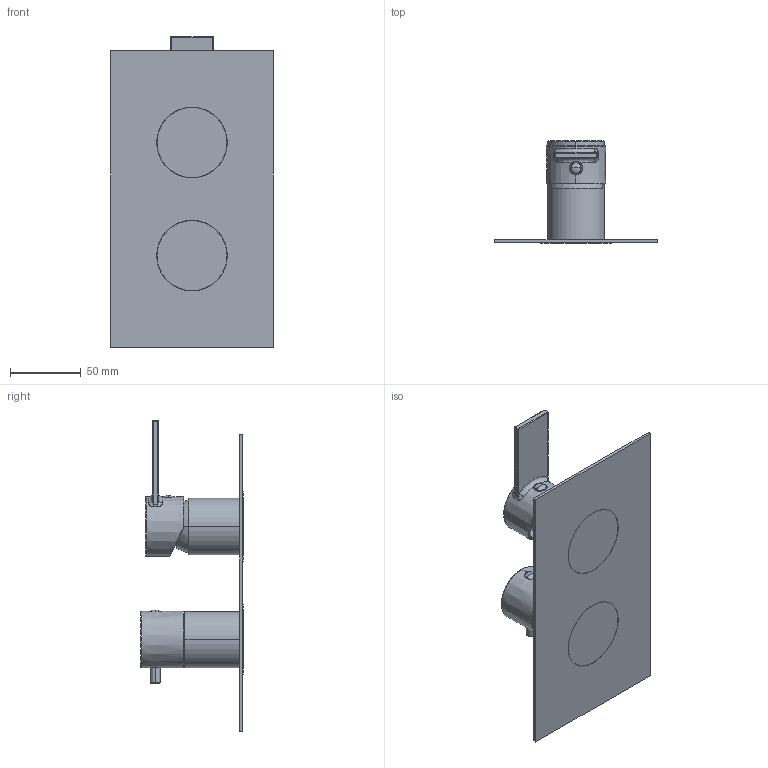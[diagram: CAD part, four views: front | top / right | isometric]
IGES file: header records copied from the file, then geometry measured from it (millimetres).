
Start section:  PTC IGES file: 55523v2_sw0001.igs
Global section: file name: 55523v2_sw0001.igs; native system: Creo Parametric by PTC Inc.; preprocessor: 2018100; author: volponeff; organization: Unknown; date: 20200924.132032; units: millimetre
Bounding box: 115 x 72.2 x 220 mm (x, y, z)
Surface area: 105431.4 mm2 (no closed solid volume)
Topology: 0 solids, 0 shells, 902 faces, 5092 edges, 5086 vertices
Faces by surface type: bspline 426, revolution 422, extrusion 54
